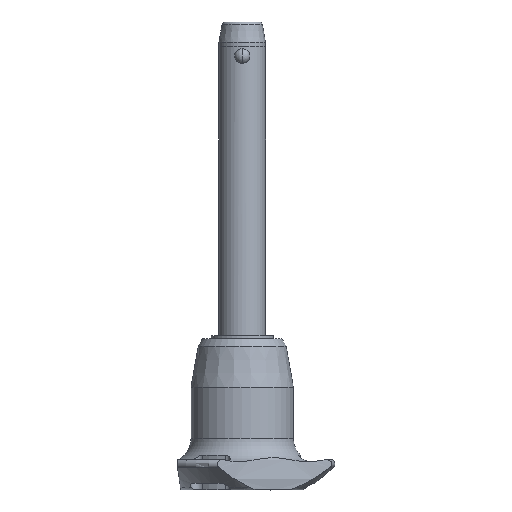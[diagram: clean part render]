
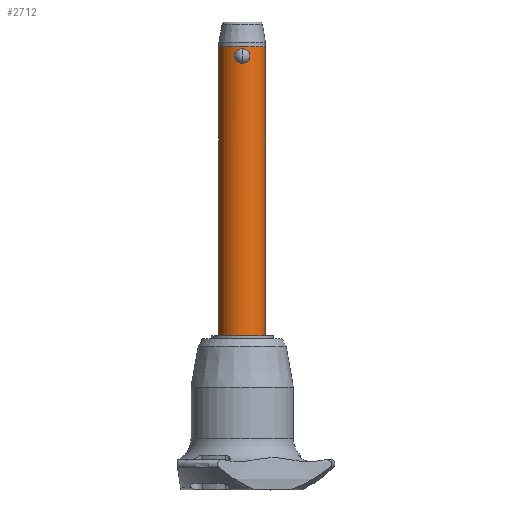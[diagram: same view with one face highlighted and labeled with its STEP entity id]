
A CAD part, front view. The second image highlights one B-rep face of the part: STEP entity #2712.
In plain terms, the highlighted cylindrical face has radius 6 mm (diameter 12 mm), a partial arc.
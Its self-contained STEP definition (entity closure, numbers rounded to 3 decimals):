
#1 = VERTEX_POINT ( 'NONE', #1647 ) ;
#63 = CARTESIAN_POINT ( 'NONE',  ( -6., 0., -70. ) ) ;
#65 = CARTESIAN_POINT ( 'NONE',  ( 6., 0., -70. ) ) ;
#87 = LINE ( 'NONE', #2816, #1732 ) ;
#88 = EDGE_CURVE ( 'NONE', #1, #1648, #1431, .T. ) ;
#91 = FACE_BOUND ( 'NONE', #141, .T. ) ;
#104 = VECTOR ( 'NONE', #1730, 1000. ) ;
#108 = CYLINDRICAL_SURFACE ( 'NONE', #209, 6. ) ;
#141 = EDGE_LOOP ( 'NONE', ( #1900, #1810 ) ) ;
#174 = DIRECTION ( 'NONE',  ( 0., 0., 1. ) ) ;
#190 = CARTESIAN_POINT ( 'NONE',  ( 0., -6., 3.708 ) ) ;
#208 = CARTESIAN_POINT ( 'NONE',  ( -1.541, -5.799, 3.011 ) ) ;
#209 = AXIS2_PLACEMENT_3D ( 'NONE', #2361, #2372, #796 ) ;
#236 = CARTESIAN_POINT ( 'NONE',  ( -1.687, -5.759, 2.809 ) ) ;
#346 = CIRCLE ( 'NONE', #820, 6. ) ;
#417 = CARTESIAN_POINT ( 'NONE',  ( 1.279, -5.863, 3.27 ) ) ;
#421 = VERTEX_POINT ( 'NONE', #2598 ) ;
#430 = CARTESIAN_POINT ( 'NONE',  ( 0., -6., 0. ) ) ;
#476 = CARTESIAN_POINT ( 'NONE',  ( 1.942, -5.677, 2.103 ) ) ;
#601 = CARTESIAN_POINT ( 'NONE',  ( -1.179, -5.884, 0.363 ) ) ;
#615 = B_SPLINE_CURVE_WITH_KNOTS ( 'NONE', 3,
 ( #2717, #2510, #2262, #1951, #2852, #1838, #2035, #2276, #821, #1567, #208, #236, #1738, #2687, #1117, #2466, #686, #2187, #2731, #2636, #1582, #1615, #601, #1513, #1144, #1360, #2047, #430 ),
 .UNSPECIFIED., .F., .F.,
 ( 4, 2, 2, 2, 2, 2, 2, 2, 2, 2, 2, 2, 2, 4 ),
 ( 0., 0., 0.001, 0.001, 0.002, 0.002, 0.002, 0.003, 0.003, 0.004, 0.005, 0.005, 0.005, 0.006 ),
 .UNSPECIFIED. ) ;
#655 = CARTESIAN_POINT ( 'NONE',  ( 1.459, -5.821, 0.604 ) ) ;
#670 = CARTESIAN_POINT ( 'NONE',  ( 0.966, -5.923, 3.476 ) ) ;
#678 = CARTESIAN_POINT ( 'NONE',  ( 0., 0., -70. ) ) ;
#686 = CARTESIAN_POINT ( 'NONE',  ( -1.942, -5.677, 1.604 ) ) ;
#687 = CARTESIAN_POINT ( 'NONE',  ( 0.62, -5.969, 3.619 ) ) ;
#696 = CARTESIAN_POINT ( 'NONE',  ( 0., -6., 3.708 ) ) ;
#701 = CARTESIAN_POINT ( 'NONE',  ( 1.178, -5.884, 3.346 ) ) ;
#796 = DIRECTION ( 'NONE',  ( 1., 0., 0. ) ) ;
#812 = LINE ( 'NONE', #2657, #104 ) ;
#820 = AXIS2_PLACEMENT_3D ( 'NONE', #678, #1846, #886 ) ;
#821 = CARTESIAN_POINT ( 'NONE',  ( -1.278, -5.863, 3.271 ) ) ;
#860 = CARTESIAN_POINT ( 'NONE',  ( 0.127, -6., 3.708 ) ) ;
#877 = CARTESIAN_POINT ( 'NONE',  ( 1.851, -5.708, 2.47 ) ) ;
#886 = DIRECTION ( 'NONE',  ( 1., 0., 0. ) ) ;
#978 = EDGE_CURVE ( 'NONE', #1648, #1, #615, .T. ) ;
#1028 = CARTESIAN_POINT ( 'NONE',  ( 0., -6., 0. ) ) ;
#1039 = DIRECTION ( 'NONE',  ( 1., 0., 0. ) ) ;
#1117 = CARTESIAN_POINT ( 'NONE',  ( -1.955, -5.673, 2.107 ) ) ;
#1134 = ORIENTED_EDGE ( 'NONE', *, *, #2043, .F. ) ;
#1144 = CARTESIAN_POINT ( 'NONE',  ( -0.853, -5.94, 0.177 ) ) ;
#1302 = ORIENTED_EDGE ( 'NONE', *, *, #1467, .T. ) ;
#1360 = CARTESIAN_POINT ( 'NONE',  ( -0.504, -5.983, 0.045 ) ) ;
#1361 = CARTESIAN_POINT ( 'NONE',  ( 0.252, -5.996, 3.697 ) ) ;
#1365 = VERTEX_POINT ( 'NONE', #63 ) ;
#1373 = CARTESIAN_POINT ( 'NONE',  ( 1.543, -5.799, 0.699 ) ) ;
#1386 = CARTESIAN_POINT ( 'NONE',  ( 1.551, -5.799, 3.018 ) ) ;
#1431 = B_SPLINE_CURVE_WITH_KNOTS ( 'NONE', 3,
 ( #1028, #1934, #2836, #2614, #1492, #2632, #2511, #655, #1373, #2230, #1839, #2022, #2732, #1616, #476, #2048, #877, #2291, #1386, #417, #701, #670, #2263, #687, #2943, #1361, #860, #190 ),
 .UNSPECIFIED., .F., .F.,
 ( 4, 2, 2, 2, 2, 2, 2, 2, 2, 2, 2, 2, 2, 4 ),
 ( 0.006, 0.007, 0.007, 0.008, 0.008, 0.008, 0.009, 0.009, 0.01, 0.011, 0.011, 0.011, 0.012, 0.012 ),
 .UNSPECIFIED. ) ;
#1467 = EDGE_CURVE ( 'NONE', #2581, #2312, #87, .T. ) ;
#1492 = CARTESIAN_POINT ( 'NONE',  ( 0.966, -5.923, 0.232 ) ) ;
#1513 = CARTESIAN_POINT ( 'NONE',  ( -0.967, -5.923, 0.233 ) ) ;
#1567 = CARTESIAN_POINT ( 'NONE',  ( -1.46, -5.821, 3.103 ) ) ;
#1582 = CARTESIAN_POINT ( 'NONE',  ( -1.551, -5.799, 0.69 ) ) ;
#1615 = CARTESIAN_POINT ( 'NONE',  ( -1.278, -5.863, 0.437 ) ) ;
#1616 = CARTESIAN_POINT ( 'NONE',  ( 1.955, -5.673, 1.979 ) ) ;
#1639 = AXIS2_PLACEMENT_3D ( 'NONE', #2168, #174, #1039 ) ;
#1647 = CARTESIAN_POINT ( 'NONE',  ( 0., -6., 0. ) ) ;
#1648 = VERTEX_POINT ( 'NONE', #696 ) ;
#1670 = EDGE_CURVE ( 'NONE', #2581, #1365, #346, .T. ) ;
#1704 = CARTESIAN_POINT ( 'NONE',  ( 6., 0., 4.24 ) ) ;
#1730 = DIRECTION ( 'NONE',  ( 0., 0., 1. ) ) ;
#1732 = VECTOR ( 'NONE', #2595, 1000. ) ;
#1738 = CARTESIAN_POINT ( 'NONE',  ( -1.75, -5.74, 2.7 ) ) ;
#1762 = EDGE_LOOP ( 'NONE', ( #1134, #2122, #1302, #2397 ) ) ;
#1810 = ORIENTED_EDGE ( 'NONE', *, *, #88, .F. ) ;
#1838 = CARTESIAN_POINT ( 'NONE',  ( -0.854, -5.94, 3.53 ) ) ;
#1839 = CARTESIAN_POINT ( 'NONE',  ( 1.749, -5.74, 1.007 ) ) ;
#1846 = DIRECTION ( 'NONE',  ( 0., 0., -1. ) ) ;
#1900 = ORIENTED_EDGE ( 'NONE', *, *, #978, .F. ) ;
#1930 = FACE_OUTER_BOUND ( 'NONE', #1762, .T. ) ;
#1934 = CARTESIAN_POINT ( 'NONE',  ( 0.25, -6., 0. ) ) ;
#1951 = CARTESIAN_POINT ( 'NONE',  ( -0.498, -5.981, 3.652 ) ) ;
#2022 = CARTESIAN_POINT ( 'NONE',  ( 1.901, -5.692, 1.35 ) ) ;
#2027 = EDGE_CURVE ( 'NONE', #421, #2312, #2673, .T. ) ;
#2035 = CARTESIAN_POINT ( 'NONE',  ( -0.966, -5.923, 3.476 ) ) ;
#2043 = EDGE_CURVE ( 'NONE', #1365, #421, #812, .T. ) ;
#2047 = CARTESIAN_POINT ( 'NONE',  ( -0.25, -6., 0. ) ) ;
#2048 = CARTESIAN_POINT ( 'NONE',  ( 1.89, -5.695, 2.349 ) ) ;
#2122 = ORIENTED_EDGE ( 'NONE', *, *, #1670, .F. ) ;
#2168 = CARTESIAN_POINT ( 'NONE',  ( 0., 0., 4.24 ) ) ;
#2187 = CARTESIAN_POINT ( 'NONE',  ( -1.89, -5.695, 1.358 ) ) ;
#2230 = CARTESIAN_POINT ( 'NONE',  ( 1.687, -5.758, 0.899 ) ) ;
#2262 = CARTESIAN_POINT ( 'NONE',  ( -0.252, -5.996, 3.697 ) ) ;
#2263 = CARTESIAN_POINT ( 'NONE',  ( 0.855, -5.94, 3.53 ) ) ;
#2276 = CARTESIAN_POINT ( 'NONE',  ( -1.177, -5.884, 3.347 ) ) ;
#2291 = CARTESIAN_POINT ( 'NONE',  ( 1.7, -5.755, 2.812 ) ) ;
#2312 = VERTEX_POINT ( 'NONE', #1704 ) ;
#2361 = CARTESIAN_POINT ( 'NONE',  ( 0., 0., -70. ) ) ;
#2372 = DIRECTION ( 'NONE',  ( 0., 0., 1. ) ) ;
#2397 = ORIENTED_EDGE ( 'NONE', *, *, #2027, .F. ) ;
#2466 = CARTESIAN_POINT ( 'NONE',  ( -1.955, -5.673, 1.731 ) ) ;
#2510 = CARTESIAN_POINT ( 'NONE',  ( -0.127, -6., 3.708 ) ) ;
#2511 = CARTESIAN_POINT ( 'NONE',  ( 1.277, -5.863, 0.437 ) ) ;
#2581 = VERTEX_POINT ( 'NONE', #65 ) ;
#2595 = DIRECTION ( 'NONE',  ( 0., 0., 1. ) ) ;
#2598 = CARTESIAN_POINT ( 'NONE',  ( -6., 0., 4.24 ) ) ;
#2614 = CARTESIAN_POINT ( 'NONE',  ( 0.853, -5.94, 0.177 ) ) ;
#2632 = CARTESIAN_POINT ( 'NONE',  ( 1.178, -5.884, 0.362 ) ) ;
#2636 = CARTESIAN_POINT ( 'NONE',  ( -1.7, -5.755, 0.895 ) ) ;
#2657 = CARTESIAN_POINT ( 'NONE',  ( -6., 0., -70. ) ) ;
#2673 = CIRCLE ( 'NONE', #1639, 6. ) ;
#2687 = CARTESIAN_POINT ( 'NONE',  ( -1.9, -5.692, 2.359 ) ) ;
#2712 = ADVANCED_FACE ( 'NONE', ( #1930, #91 ), #108, .T. ) ;
#2717 = CARTESIAN_POINT ( 'NONE',  ( 0., -6., 3.708 ) ) ;
#2731 = CARTESIAN_POINT ( 'NONE',  ( -1.852, -5.707, 1.239 ) ) ;
#2732 = CARTESIAN_POINT ( 'NONE',  ( 1.955, -5.673, 1.6 ) ) ;
#2816 = CARTESIAN_POINT ( 'NONE',  ( 6., 0., -70. ) ) ;
#2836 = CARTESIAN_POINT ( 'NONE',  ( 0.503, -5.983, 0.045 ) ) ;
#2852 = CARTESIAN_POINT ( 'NONE',  ( -0.62, -5.969, 3.619 ) ) ;
#2943 = CARTESIAN_POINT ( 'NONE',  ( 0.498, -5.981, 3.652 ) ) ;
